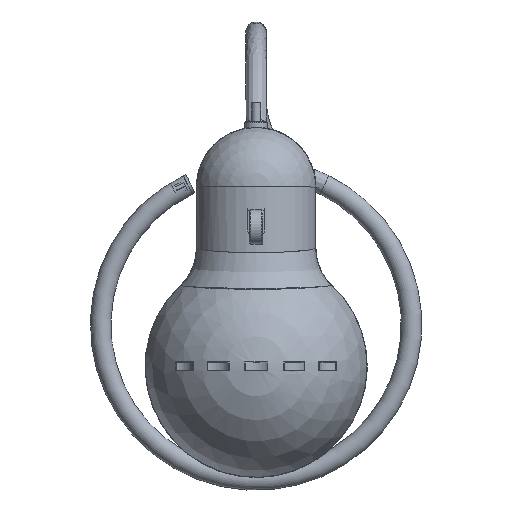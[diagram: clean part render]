
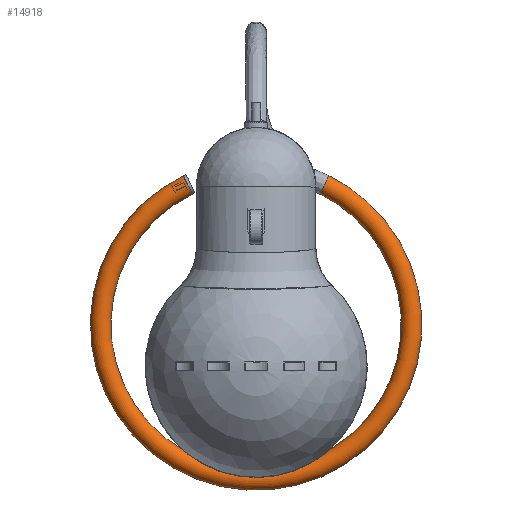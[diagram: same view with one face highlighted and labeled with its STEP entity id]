
A CAD part, top view. The second image highlights one B-rep face of the part: STEP entity #14918.
In plain terms, the highlighted toroidal (fillet/blend) face has major radius 91 mm and minor radius 6 mm.
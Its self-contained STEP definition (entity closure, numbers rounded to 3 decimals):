
#38=TOROIDAL_SURFACE('',#15988,91.,6.);
#6002=ORIENTED_EDGE('',*,*,#7679,.F.);
#6003=ORIENTED_EDGE('',*,*,#7680,.T.);
#7679=EDGE_CURVE('',#8790,#8790,#9237,.F.);
#7680=EDGE_CURVE('',#8791,#8791,#9238,.F.);
#8790=VERTEX_POINT('',#34671);
#8791=VERTEX_POINT('',#34674);
#9237=CIRCLE('',#15987,6.);
#9238=CIRCLE('',#15989,6.);
#10091=EDGE_LOOP('',(#6002));
#10092=EDGE_LOOP('',(#6003));
#10974=FACE_BOUND('',#10091,.T.);
#10975=FACE_BOUND('',#10092,.T.);
#14918=ADVANCED_FACE('',(#10974,#10975),#38,.T.);
#15987=AXIS2_PLACEMENT_3D('',#34670,#18822,#18823);
#15988=AXIS2_PLACEMENT_3D('',#34672,#18824,#18825);
#15989=AXIS2_PLACEMENT_3D('',#34673,#18826,#18827);
#18822=DIRECTION('',(0.898,-0.44,0.));
#18823=DIRECTION('',(-0.44,-0.898,0.));
#18824=DIRECTION('',(0.,0.,1.));
#18825=DIRECTION('',(1.,0.,0.));
#18826=DIRECTION('',(0.898,0.44,0.));
#18827=DIRECTION('',(0.44,-0.898,0.));
#34670=CARTESIAN_POINT('',(40.,-9.263,0.));
#34671=CARTESIAN_POINT('',(37.363,-14.652,0.));
#34672=CARTESIAN_POINT('',(0.,-91.,0.));
#34673=CARTESIAN_POINT('',(-40.,-9.263,0.));
#34674=CARTESIAN_POINT('',(-37.363,-14.652,0.));
